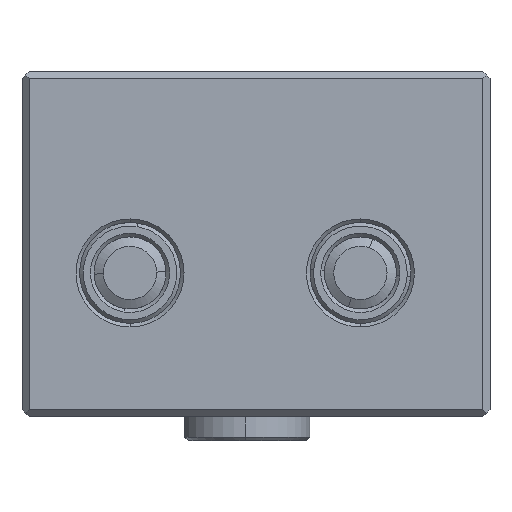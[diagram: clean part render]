
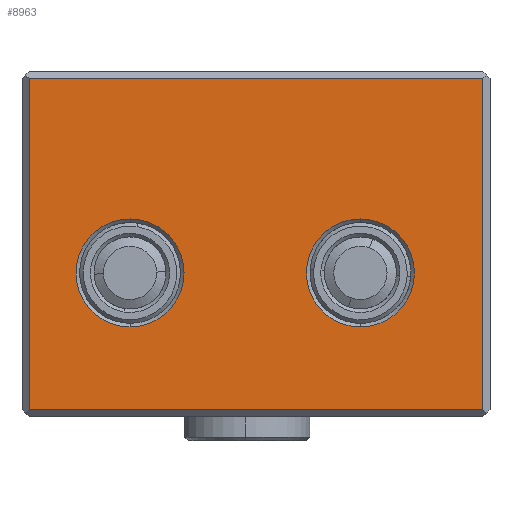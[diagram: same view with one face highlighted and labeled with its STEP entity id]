
A CAD part, front view. The second image highlights one B-rep face of the part: STEP entity #8963.
In plain terms, the highlighted planar face has unit normal (0, -1, 0).
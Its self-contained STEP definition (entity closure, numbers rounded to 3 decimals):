
#160 = DIRECTION ( 'NONE',  ( 0., 1., 0. ) ) ;
#457 = DIRECTION ( 'NONE',  ( 0., 0., 1. ) ) ;
#1277 = AXIS2_PLACEMENT_3D ( 'NONE', #23987, #160, #6488 ) ;
#1599 = CARTESIAN_POINT ( 'NONE',  ( -17.5, -28.25, 20. ) ) ;
#1862 = PLANE ( 'NONE',  #15545 ) ;
#2868 = VERTEX_POINT ( 'NONE', #5540 ) ;
#2973 = FACE_BOUND ( 'NONE', #8699, .T. ) ;
#3119 = CIRCLE ( 'NONE', #1277, 7.5 ) ;
#3882 = CARTESIAN_POINT ( 'NONE',  ( -32.5, -28.25, 48. ) ) ;
#4020 = CARTESIAN_POINT ( 'NONE',  ( 14.5, -28.25, 27.5 ) ) ;
#4968 = EDGE_LOOP ( 'NONE', ( #8688, #12196 ) ) ;
#5540 = CARTESIAN_POINT ( 'NONE',  ( -17.5, -28.25, 12.5 ) ) ;
#5758 = FACE_BOUND ( 'NONE', #4968, .T. ) ;
#5905 = EDGE_CURVE ( 'NONE', #2868, #25114, #21582, .T. ) ;
#6116 = CIRCLE ( 'NONE', #18442, 7.5 ) ;
#6119 = DIRECTION ( 'NONE',  ( 0., 0., -1. ) ) ;
#6351 = ORIENTED_EDGE ( 'NONE', *, *, #19124, .T. ) ;
#6488 = DIRECTION ( 'NONE',  ( 0., 0., 1. ) ) ;
#6856 = EDGE_LOOP ( 'NONE', ( #7075, #18545, #20379, #6351 ) ) ;
#7075 = ORIENTED_EDGE ( 'NONE', *, *, #18787, .T. ) ;
#8149 = CARTESIAN_POINT ( 'NONE',  ( -17.5, -28.25, 20. ) ) ;
#8688 = ORIENTED_EDGE ( 'NONE', *, *, #5905, .T. ) ;
#8699 = EDGE_LOOP ( 'NONE', ( #16025, #25268 ) ) ;
#8963 = ADVANCED_FACE ( 'NONE', ( #5758, #2973, #9228 ), #1862, .F. ) ;
#9228 = FACE_OUTER_BOUND ( 'NONE', #6856, .T. ) ;
#9584 = DIRECTION ( 'NONE',  ( 0., 1., 0. ) ) ;
#9668 = CIRCLE ( 'NONE', #21358, 7.5 ) ;
#9728 = DIRECTION ( 'NONE',  ( 0., 0., 1. ) ) ;
#9890 = LINE ( 'NONE', #11287, #12380 ) ;
#9912 = DIRECTION ( 'NONE',  ( 0., 1., 0. ) ) ;
#10178 = DIRECTION ( 'NONE',  ( 0., 1., 0. ) ) ;
#10227 = CARTESIAN_POINT ( 'NONE',  ( -17.5, -28.25, 27.5 ) ) ;
#10704 = VERTEX_POINT ( 'NONE', #25413 ) ;
#11156 = VECTOR ( 'NONE', #6119, 1000. ) ;
#11287 = CARTESIAN_POINT ( 'NONE',  ( -32.5, -28.25, 47. ) ) ;
#11598 = CARTESIAN_POINT ( 'NONE',  ( 14.5, -28.25, 20. ) ) ;
#12196 = ORIENTED_EDGE ( 'NONE', *, *, #12602, .T. ) ;
#12380 = VECTOR ( 'NONE', #19217, 1000. ) ;
#12395 = VECTOR ( 'NONE', #16886, 1000. ) ;
#12602 = EDGE_CURVE ( 'NONE', #25114, #2868, #9668, .T. ) ;
#14285 = VECTOR ( 'NONE', #17784, 1000. ) ;
#14597 = CARTESIAN_POINT ( 'NONE',  ( 31.5, -28.25, 1. ) ) ;
#15545 = AXIS2_PLACEMENT_3D ( 'NONE', #3882, #9912, #24023 ) ;
#15848 = AXIS2_PLACEMENT_3D ( 'NONE', #8149, #10178, #457 ) ;
#16025 = ORIENTED_EDGE ( 'NONE', *, *, #18886, .T. ) ;
#16540 = EDGE_CURVE ( 'NONE', #22997, #23470, #3119, .T. ) ;
#16835 = LINE ( 'NONE', #22415, #11156 ) ;
#16886 = DIRECTION ( 'NONE',  ( 1., 0., 0. ) ) ;
#17784 = DIRECTION ( 'NONE',  ( 0., 0., 1. ) ) ;
#18442 = AXIS2_PLACEMENT_3D ( 'NONE', #11598, #9584, #23778 ) ;
#18545 = ORIENTED_EDGE ( 'NONE', *, *, #25889, .T. ) ;
#18787 = EDGE_CURVE ( 'NONE', #20018, #23610, #25021, .T. ) ;
#18886 = EDGE_CURVE ( 'NONE', #23470, #22997, #6116, .T. ) ;
#19124 = EDGE_CURVE ( 'NONE', #19152, #20018, #16835, .T. ) ;
#19152 = VERTEX_POINT ( 'NONE', #22575 ) ;
#19217 = DIRECTION ( 'NONE',  ( -1., 0., 0. ) ) ;
#19301 = CARTESIAN_POINT ( 'NONE',  ( -31.5, -28.25, 1. ) ) ;
#19696 = CARTESIAN_POINT ( 'NONE',  ( 31.5, -28.25, 48. ) ) ;
#20018 = VERTEX_POINT ( 'NONE', #19301 ) ;
#20379 = ORIENTED_EDGE ( 'NONE', *, *, #25309, .T. ) ;
#21358 = AXIS2_PLACEMENT_3D ( 'NONE', #1599, #21453, #9728 ) ;
#21453 = DIRECTION ( 'NONE',  ( 0., 1., 0. ) ) ;
#21560 = LINE ( 'NONE', #19696, #14285 ) ;
#21582 = CIRCLE ( 'NONE', #15848, 7.5 ) ;
#22415 = CARTESIAN_POINT ( 'NONE',  ( -31.5, -28.25, 48. ) ) ;
#22575 = CARTESIAN_POINT ( 'NONE',  ( -31.5, -28.25, 47. ) ) ;
#22997 = VERTEX_POINT ( 'NONE', #4020 ) ;
#23157 = CARTESIAN_POINT ( 'NONE',  ( -32.5, -28.25, 1. ) ) ;
#23470 = VERTEX_POINT ( 'NONE', #25536 ) ;
#23610 = VERTEX_POINT ( 'NONE', #14597 ) ;
#23778 = DIRECTION ( 'NONE',  ( 0., 0., 1. ) ) ;
#23987 = CARTESIAN_POINT ( 'NONE',  ( 14.5, -28.25, 20. ) ) ;
#24023 = DIRECTION ( 'NONE',  ( 0., 0., 1. ) ) ;
#25021 = LINE ( 'NONE', #23157, #12395 ) ;
#25114 = VERTEX_POINT ( 'NONE', #10227 ) ;
#25268 = ORIENTED_EDGE ( 'NONE', *, *, #16540, .T. ) ;
#25309 = EDGE_CURVE ( 'NONE', #10704, #19152, #9890, .T. ) ;
#25413 = CARTESIAN_POINT ( 'NONE',  ( 31.5, -28.25, 47. ) ) ;
#25536 = CARTESIAN_POINT ( 'NONE',  ( 14.5, -28.25, 12.5 ) ) ;
#25889 = EDGE_CURVE ( 'NONE', #23610, #10704, #21560, .T. ) ;
